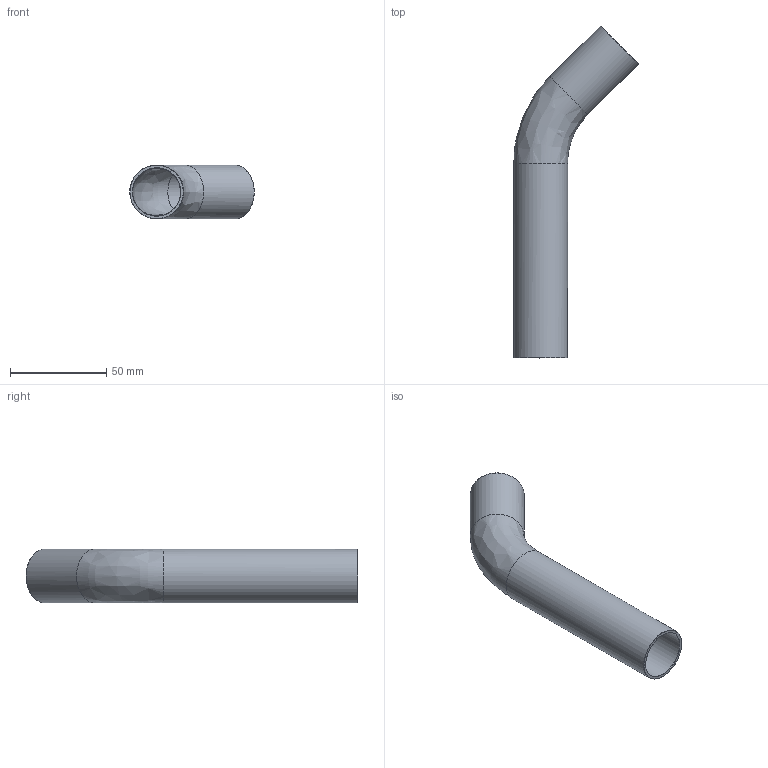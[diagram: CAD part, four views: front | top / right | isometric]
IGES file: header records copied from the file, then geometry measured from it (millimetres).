
Global section: file name: C73AF; native system: Autodesk Inventor 2023; preprocessor: unknown; author: lvalentini; date: 20230921.120729; units: millimetre
Bounding box: 64.82 x 172.83 x 28 mm (x, y, z)
Volume: 22295.2 mm3; surface area: 29871.9 mm2
Topology: 1 solids, 1 shells, 12 faces, 26 edges, 16 vertices
Faces by surface type: bspline 12
